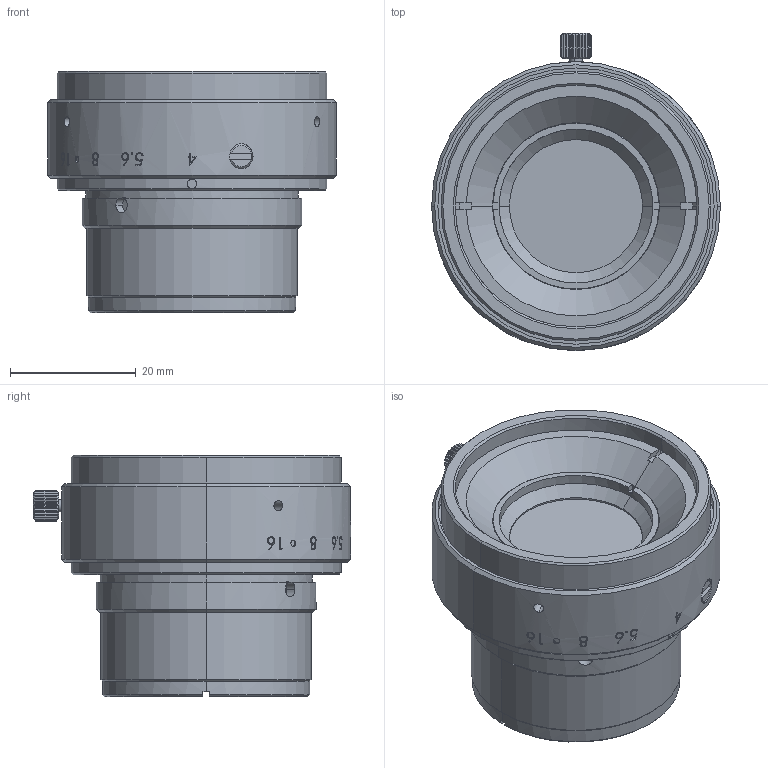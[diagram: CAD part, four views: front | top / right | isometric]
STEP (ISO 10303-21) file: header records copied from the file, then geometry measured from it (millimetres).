
FILE_DESCRIPTION (( 'STEP AP203' ), '1' );
FILE_NAME ('3d_ml-5540-62m35.STEP', '2016-02-25T04:43:48', ( '' ), ( '' ), 'SwSTEP 2.0', 'SolidWorks 2014', '' );
FILE_SCHEMA (( 'CONFIG_CONTROL_DESIGN' ));
Length unit declared in the file: millimetre
Products named in the file (1): 3d_ml-5540-62m35
Bounding box: 46 x 50.5 x 38.4 mm (x, y, z)
Volume: 37774 mm3; surface area: 10149.8 mm2
Topology: 1 solids, 2 shells, 484 faces, 1256 edges, 817 vertices
Faces by surface type: plane 162, cylinder 136, bspline 122, cone 58, torus 4, sphere 2
Entity records: 27014 total; most frequent: CARTESIAN_POINT 16531, ORIENTED_EDGE 2508, DIRECTION 1584, EDGE_CURVE 1254, VERTEX_POINT 817, B_SPLINE_CURVE_WITH_KNOTS 650, AXIS2_PLACEMENT_3D 622, EDGE_LOOP 529
